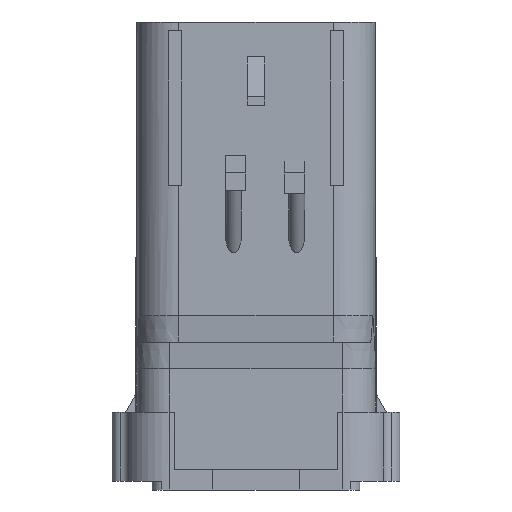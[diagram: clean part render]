
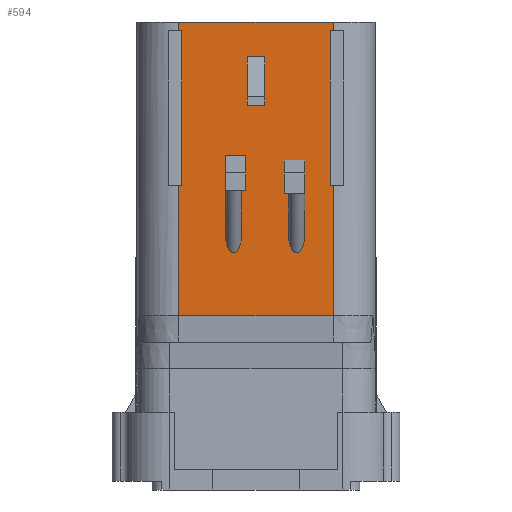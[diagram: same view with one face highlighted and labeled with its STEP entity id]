
A CAD part, front view. The second image highlights one B-rep face of the part: STEP entity #594.
In plain terms, the highlighted planar face has unit normal (0, -1, 0).
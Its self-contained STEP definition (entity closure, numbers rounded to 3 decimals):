
#145=ELLIPSE('',#5195,1.814,0.9);
#147=ELLIPSE('',#5208,1.814,0.9);
#594=ADVANCED_FACE('',(#1039,#1040,#1041,#1042),#824,.T.);
#824=PLANE('',#5226);
#1039=FACE_BOUND('',#1198,.T.);
#1040=FACE_BOUND('',#1199,.T.);
#1041=FACE_BOUND('',#1200,.T.);
#1042=FACE_BOUND('',#1201,.T.);
#1198=EDGE_LOOP('',(#2112,#2113,#2114,#2115,#2116,#2117,#2118,#2119,#2120,
#2121,#2122,#2123));
#1199=EDGE_LOOP('',(#2124,#2125,#2126,#2127,#2128,#2129));
#1200=EDGE_LOOP('',(#2130,#2131,#2132,#2133));
#1201=EDGE_LOOP('',(#2134,#2135,#2136,#2137,#2138,#2139));
#2112=ORIENTED_EDGE('',*,*,#3469,.F.);
#2113=ORIENTED_EDGE('',*,*,#3465,.T.);
#2114=ORIENTED_EDGE('',*,*,#3632,.T.);
#2115=ORIENTED_EDGE('',*,*,#3609,.T.);
#2116=ORIENTED_EDGE('',*,*,#3634,.F.);
#2117=ORIENTED_EDGE('',*,*,#3461,.T.);
#2118=ORIENTED_EDGE('',*,*,#3635,.F.);
#2119=ORIENTED_EDGE('',*,*,#3491,.F.);
#2120=ORIENTED_EDGE('',*,*,#3628,.T.);
#2121=ORIENTED_EDGE('',*,*,#3605,.F.);
#2122=ORIENTED_EDGE('',*,*,#3630,.F.);
#2123=ORIENTED_EDGE('',*,*,#3487,.F.);
#2124=ORIENTED_EDGE('',*,*,#3604,.T.);
#2125=ORIENTED_EDGE('',*,*,#3602,.T.);
#2126=ORIENTED_EDGE('',*,*,#3599,.F.);
#2127=ORIENTED_EDGE('',*,*,#3597,.T.);
#2128=ORIENTED_EDGE('',*,*,#3595,.T.);
#2129=ORIENTED_EDGE('',*,*,#3592,.T.);
#2130=ORIENTED_EDGE('',*,*,#3590,.T.);
#2131=ORIENTED_EDGE('',*,*,#3589,.T.);
#2132=ORIENTED_EDGE('',*,*,#3587,.F.);
#2133=ORIENTED_EDGE('',*,*,#3585,.F.);
#2134=ORIENTED_EDGE('',*,*,#3582,.T.);
#2135=ORIENTED_EDGE('',*,*,#3580,.T.);
#2136=ORIENTED_EDGE('',*,*,#3578,.T.);
#2137=ORIENTED_EDGE('',*,*,#3576,.T.);
#2138=ORIENTED_EDGE('',*,*,#3574,.T.);
#2139=ORIENTED_EDGE('',*,*,#3571,.T.);
#2930=VERTEX_POINT('',#7288);
#2935=VERTEX_POINT('',#7318);
#2936=VERTEX_POINT('',#7320);
#2939=VERTEX_POINT('',#7326);
#2940=VERTEX_POINT('',#7330);
#2952=VERTEX_POINT('',#7387);
#2955=VERTEX_POINT('',#7393);
#2956=VERTEX_POINT('',#7395);
#3013=VERTEX_POINT('',#7559);
#3014=VERTEX_POINT('',#7561);
#3015=VERTEX_POINT('',#7566);
#3016=VERTEX_POINT('',#7570);
#3017=VERTEX_POINT('',#7574);
#3018=VERTEX_POINT('',#7578);
#3019=VERTEX_POINT('',#7584);
#3020=VERTEX_POINT('',#7586);
#3021=VERTEX_POINT('',#7590);
#3022=VERTEX_POINT('',#7594);
#3024=VERTEX_POINT('',#7601);
#3025=VERTEX_POINT('',#7603);
#3026=VERTEX_POINT('',#7608);
#3027=VERTEX_POINT('',#7612);
#3028=VERTEX_POINT('',#7616);
#3030=VERTEX_POINT('',#7622);
#3031=VERTEX_POINT('',#7628);
#3032=VERTEX_POINT('',#7629);
#3033=VERTEX_POINT('',#7634);
#3034=VERTEX_POINT('',#7636);
#3461=EDGE_CURVE('',#2936,#2935,#4094,.T.);
#3465=EDGE_CURVE('',#2930,#2939,#4096,.T.);
#3469=EDGE_CURVE('',#2930,#2940,#4098,.T.);
#3487=EDGE_CURVE('',#2940,#2952,#4111,.T.);
#3491=EDGE_CURVE('',#2955,#2956,#4113,.T.);
#3571=EDGE_CURVE('',#3014,#3013,#4189,.T.);
#3574=EDGE_CURVE('',#3015,#3014,#4192,.T.);
#3576=EDGE_CURVE('',#3016,#3015,#4194,.T.);
#3578=EDGE_CURVE('',#3017,#3016,#4196,.T.);
#3580=EDGE_CURVE('',#3018,#3017,#145,.T.);
#3582=EDGE_CURVE('',#3013,#3018,#4199,.T.);
#3585=EDGE_CURVE('',#3020,#3019,#4202,.T.);
#3587=EDGE_CURVE('',#3019,#3021,#4204,.T.);
#3589=EDGE_CURVE('',#3022,#3021,#4206,.T.);
#3590=EDGE_CURVE('',#3020,#3022,#4207,.T.);
#3592=EDGE_CURVE('',#3025,#3024,#4209,.T.);
#3595=EDGE_CURVE('',#3026,#3025,#4212,.T.);
#3597=EDGE_CURVE('',#3027,#3026,#4214,.T.);
#3599=EDGE_CURVE('',#3027,#3028,#4216,.T.);
#3602=EDGE_CURVE('',#3030,#3028,#4218,.T.);
#3604=EDGE_CURVE('',#3024,#3030,#147,.T.);
#3605=EDGE_CURVE('',#3031,#3032,#4220,.T.);
#3609=EDGE_CURVE('',#3034,#3033,#4224,.T.);
#3628=EDGE_CURVE('',#2955,#3032,#4240,.T.);
#3630=EDGE_CURVE('',#2952,#3031,#4242,.T.);
#3632=EDGE_CURVE('',#2939,#3034,#4244,.T.);
#3634=EDGE_CURVE('',#2936,#3033,#4246,.T.);
#3635=EDGE_CURVE('',#2956,#2935,#4247,.T.);
#4094=LINE('',#7319,#4660);
#4096=LINE('',#7327,#4662);
#4098=LINE('',#7341,#4664);
#4111=LINE('',#7386,#4677);
#4113=LINE('',#7394,#4679);
#4189=LINE('',#7560,#4755);
#4192=LINE('',#7565,#4758);
#4194=LINE('',#7569,#4760);
#4196=LINE('',#7573,#4762);
#4199=LINE('',#7581,#4765);
#4202=LINE('',#7587,#4768);
#4204=LINE('',#7591,#4770);
#4206=LINE('',#7595,#4772);
#4207=LINE('',#7597,#4773);
#4209=LINE('',#7602,#4775);
#4212=LINE('',#7607,#4778);
#4214=LINE('',#7611,#4780);
#4216=LINE('',#7615,#4782);
#4218=LINE('',#7621,#4784);
#4220=LINE('',#7627,#4786);
#4224=LINE('',#7635,#4790);
#4240=LINE('',#7670,#4806);
#4242=LINE('',#7674,#4808);
#4244=LINE('',#7677,#4810);
#4246=LINE('',#7681,#4812);
#4247=LINE('',#7683,#4813);
#4660=VECTOR('',#5881,1.);
#4662=VECTOR('',#5887,1.);
#4664=VECTOR('',#5895,1.);
#4677=VECTOR('',#5930,1.);
#4679=VECTOR('',#5936,1.);
#4755=VECTOR('',#6076,1.);
#4758=VECTOR('',#6081,1.);
#4760=VECTOR('',#6085,1.);
#4762=VECTOR('',#6089,1.);
#4765=VECTOR('',#6098,1.);
#4768=VECTOR('',#6103,1.);
#4770=VECTOR('',#6107,1.);
#4772=VECTOR('',#6111,1.);
#4773=VECTOR('',#6114,1.);
#4775=VECTOR('',#6118,1.);
#4778=VECTOR('',#6123,1.);
#4780=VECTOR('',#6127,1.);
#4782=VECTOR('',#6131,1.);
#4784=VECTOR('',#6137,1.);
#4786=VECTOR('',#6145,1.);
#4790=VECTOR('',#6151,1.);
#4806=VECTOR('',#6185,1.);
#4808=VECTOR('',#6191,1.);
#4810=VECTOR('',#6195,1.);
#4812=VECTOR('',#6201,1.);
#4813=VECTOR('',#6204,1.);
#5195=AXIS2_PLACEMENT_3D('',#7577,#6093,#6094);
#5208=AXIS2_PLACEMENT_3D('',#7625,#6141,#6142);
#5226=AXIS2_PLACEMENT_3D('',#7684,#6205,#6206);
#5881=DIRECTION('',(0.,0.,1.));
#5887=DIRECTION('',(0.,0.,1.));
#5895=DIRECTION('',(-1.,0.,0.));
#5930=DIRECTION('',(0.,0.,1.));
#5936=DIRECTION('',(0.,0.,1.));
#6076=DIRECTION('',(-1.,0.,0.));
#6081=DIRECTION('',(0.,0.,-1.));
#6085=DIRECTION('',(1.,0.,0.));
#6089=DIRECTION('',(0.,0.,1.));
#6093=DIRECTION('',(0.,1.,0.));
#6094=DIRECTION('',(0.,0.,-1.));
#6098=DIRECTION('',(0.,0.,-1.));
#6103=DIRECTION('',(0.,0.,-1.));
#6107=DIRECTION('',(1.,0.,0.));
#6111=DIRECTION('',(0.,0.,-1.));
#6114=DIRECTION('',(1.,0.,0.));
#6118=DIRECTION('',(0.,0.,-1.));
#6123=DIRECTION('',(1.,0.,0.));
#6127=DIRECTION('',(0.,0.,1.));
#6131=DIRECTION('',(1.,0.,0.));
#6137=DIRECTION('',(0.,0.,1.));
#6141=DIRECTION('',(0.,1.,0.));
#6142=DIRECTION('',(0.,0.,-1.));
#6145=DIRECTION('',(0.,0.,1.));
#6151=DIRECTION('',(0.,0.,1.));
#6185=DIRECTION('',(1.,0.,0.));
#6191=DIRECTION('',(1.,0.,0.));
#6195=DIRECTION('',(-1.,0.,0.));
#6201=DIRECTION('',(-1.,0.,0.));
#6204=DIRECTION('',(1.,0.,0.));
#6205=DIRECTION('',(0.,-1.,0.));
#6206=DIRECTION('',(1.,0.,0.));
#7288=CARTESIAN_POINT('',(8.75,-6.2,1.7));
#7318=CARTESIAN_POINT('',(8.75,-6.2,34.95));
#7319=CARTESIAN_POINT('',(8.75,-6.2,33.95));
#7320=CARTESIAN_POINT('',(8.75,-6.2,33.95));
#7326=CARTESIAN_POINT('',(8.75,-6.2,16.45));
#7327=CARTESIAN_POINT('',(8.75,-6.2,1.7));
#7330=CARTESIAN_POINT('',(-8.75,-6.2,1.7));
#7341=CARTESIAN_POINT('',(8.75,-6.2,1.7));
#7386=CARTESIAN_POINT('',(-8.75,-6.2,1.7));
#7387=CARTESIAN_POINT('',(-8.75,-6.2,16.45));
#7393=CARTESIAN_POINT('',(-8.75,-6.2,33.95));
#7394=CARTESIAN_POINT('',(-8.75,-6.2,33.95));
#7395=CARTESIAN_POINT('',(-8.75,-6.2,34.95));
#7559=CARTESIAN_POINT('',(-1.65,-6.2,15.85));
#7560=CARTESIAN_POINT('',(-10.5,-6.2,15.85));
#7561=CARTESIAN_POINT('',(-1.15,-6.2,15.85));
#7565=CARTESIAN_POINT('',(-1.15,-6.2,19.497));
#7566=CARTESIAN_POINT('',(-1.15,-6.2,19.852));
#7569=CARTESIAN_POINT('',(-3.08,-6.2,19.852));
#7570=CARTESIAN_POINT('',(-3.45,-6.2,19.852));
#7573=CARTESIAN_POINT('',(-3.45,-6.2,20.013));
#7574=CARTESIAN_POINT('',(-3.45,-6.2,10.664));
#7577=CARTESIAN_POINT('',(-2.55,-6.2,10.664));
#7578=CARTESIAN_POINT('',(-1.65,-6.2,10.664));
#7581=CARTESIAN_POINT('',(-1.65,-6.2,15.913));
#7584=CARTESIAN_POINT('',(-1.,-6.2,25.5));
#7586=CARTESIAN_POINT('',(-1.,-6.2,31.));
#7587=CARTESIAN_POINT('',(-1.,-6.2,31.));
#7590=CARTESIAN_POINT('',(1.,-6.2,25.5));
#7591=CARTESIAN_POINT('',(-1.,-6.2,25.5));
#7594=CARTESIAN_POINT('',(1.,-6.2,31.));
#7595=CARTESIAN_POINT('',(1.,-6.2,31.));
#7597=CARTESIAN_POINT('',(-1.,-6.2,31.));
#7601=CARTESIAN_POINT('',(5.5,-6.2,10.664));
#7602=CARTESIAN_POINT('',(5.5,-6.2,19.88));
#7603=CARTESIAN_POINT('',(5.5,-6.2,19.306));
#7607=CARTESIAN_POINT('',(3.528,-6.2,19.306));
#7608=CARTESIAN_POINT('',(3.2,-6.2,19.306));
#7611=CARTESIAN_POINT('',(3.2,-6.2,18.931));
#7612=CARTESIAN_POINT('',(3.2,-6.2,15.5));
#7615=CARTESIAN_POINT('',(3.57,-6.2,15.5));
#7616=CARTESIAN_POINT('',(3.7,-6.2,15.5));
#7621=CARTESIAN_POINT('',(3.7,-6.2,10.795));
#7622=CARTESIAN_POINT('',(3.7,-6.2,10.664));
#7625=CARTESIAN_POINT('',(4.6,-6.2,10.664));
#7627=CARTESIAN_POINT('',(-8.4,-6.2,-1.575));
#7628=CARTESIAN_POINT('',(-8.4,-6.2,16.45));
#7629=CARTESIAN_POINT('',(-8.4,-6.2,33.95));
#7634=CARTESIAN_POINT('',(8.4,-6.2,33.95));
#7635=CARTESIAN_POINT('',(8.4,-6.2,14.7));
#7636=CARTESIAN_POINT('',(8.4,-6.2,16.45));
#7670=CARTESIAN_POINT('',(-8.75,-6.2,33.95));
#7674=CARTESIAN_POINT('',(-8.75,-6.2,16.45));
#7677=CARTESIAN_POINT('',(8.75,-6.2,16.45));
#7681=CARTESIAN_POINT('',(8.75,-6.2,33.95));
#7683=CARTESIAN_POINT('',(-15.6,-6.2,34.95));
#7684=CARTESIAN_POINT('',(-10.5,-6.2,-1.575));
